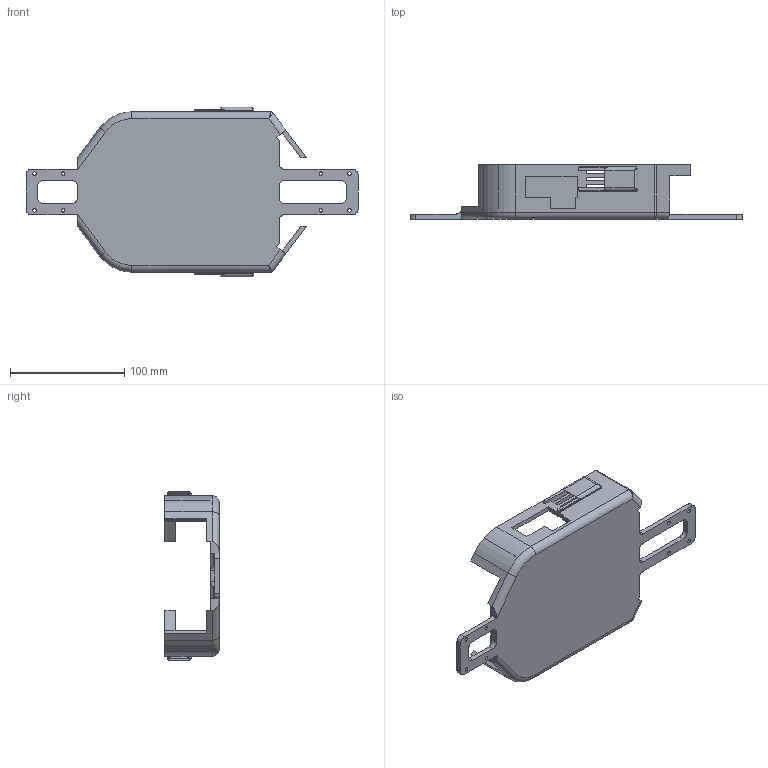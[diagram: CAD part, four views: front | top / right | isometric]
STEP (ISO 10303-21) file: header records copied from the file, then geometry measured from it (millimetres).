
FILE_DESCRIPTION (( 'STEP AP203' ), '1' );
FILE_NAME ('Frame Cover.STEP', '2026-01-17T21:10:58', ( '' ), ( '' ), 'SwSTEP 2.0', 'SolidWorks 2026', '' );
FILE_SCHEMA (( 'CONFIG_CONTROL_DESIGN' ));
Length unit declared in the file: millimetre
Products named in the file (1): Frame Cover
Bounding box: 290 x 47.5 x 148 mm (x, y, z)
Volume: 229748 mm3; surface area: 90735.8 mm2
Topology: 1 solids, 1 shells, 185 faces, 538 edges, 342 vertices
Faces by surface type: plane 99, cylinder 78, bspline 6, torus 2
Entity records: 6479 total; most frequent: CARTESIAN_POINT 1488, ORIENTED_EDGE 1064, DIRECTION 994, EDGE_CURVE 532, LINE 366, VECTOR 366, VERTEX_POINT 342, AXIS2_PLACEMENT_3D 314
